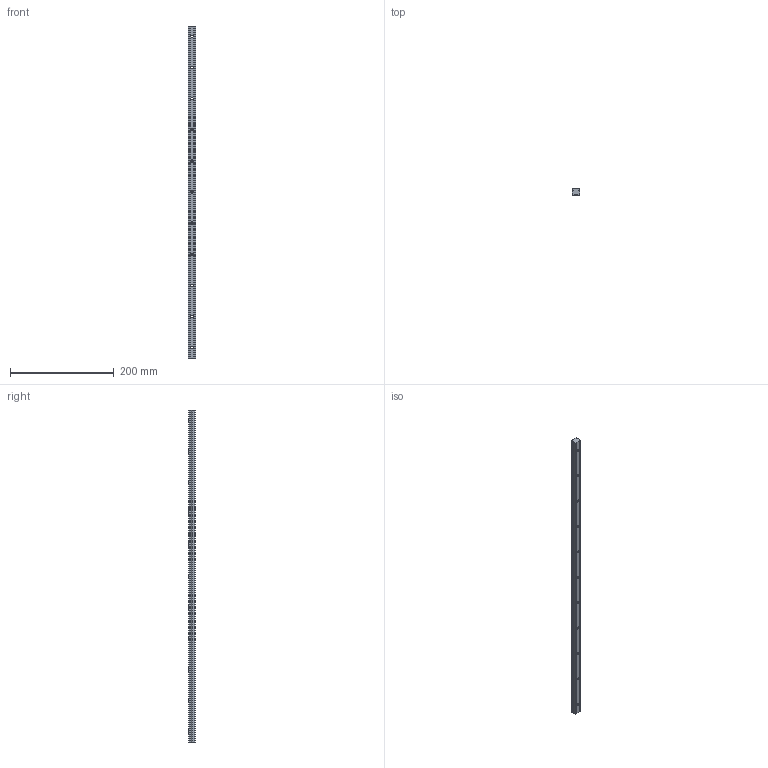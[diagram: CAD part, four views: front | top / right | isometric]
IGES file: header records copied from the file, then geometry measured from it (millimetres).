
Start section: SolidWorks IGES file using analytic representation for surfaces
Global section: file name: C:\Users\IanO\Desktop\L1016_v2\L1016.BL15_v2\L1016.BL15_v2_20190611_IGES\L1016.BL15-0640.igs; native system: SolidWorks 2017; preprocessor: SolidWorks 2017; author: IanO; date: 190612.122616; units: millimetre
Bounding box: 15 x 13 x 640 mm (x, y, z)
Surface area: 39414.1 mm2 (no closed solid volume)
Topology: 0 solids, 0 shells, 81 faces, 1736 edges, 1736 vertices
Faces by surface type: revolution 48, bspline 33
